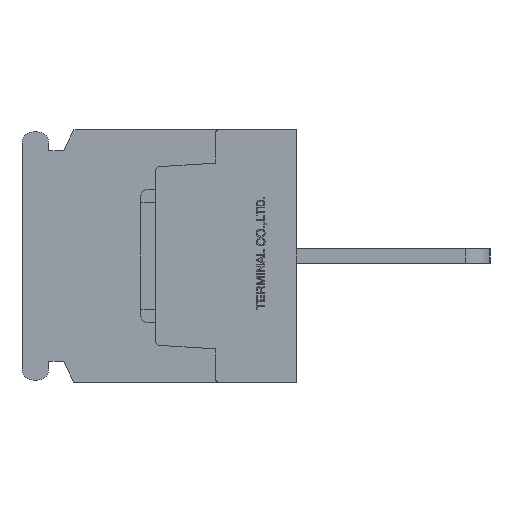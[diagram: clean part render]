
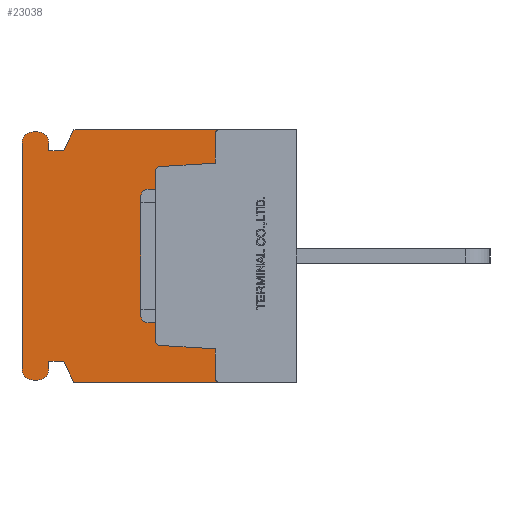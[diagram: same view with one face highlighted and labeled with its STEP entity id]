
A CAD part, left-side view. The second image highlights one B-rep face of the part: STEP entity #23038.
In plain terms, the highlighted planar face has unit normal (-1, 0, 0).
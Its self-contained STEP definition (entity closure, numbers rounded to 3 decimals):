
#1359=CIRCLE('',#24706,0.3);
#1361=CIRCLE('',#24710,0.3);
#1363=CIRCLE('',#24715,0.3);
#1365=CIRCLE('',#24718,0.3);
#1374=CIRCLE('',#24875,0.75);
#1375=CIRCLE('',#24876,0.75);
#1376=CIRCLE('',#24877,0.75);
#1377=CIRCLE('',#24878,0.75);
#2634=VERTEX_POINT('',#34481);
#2635=VERTEX_POINT('',#34483);
#2673=VERTEX_POINT('',#34567);
#2674=VERTEX_POINT('',#34569);
#3139=VERTEX_POINT('',#36195);
#3140=VERTEX_POINT('',#36196);
#3143=VERTEX_POINT('',#36204);
#3157=VERTEX_POINT('',#36234);
#3159=VERTEX_POINT('',#36240);
#3161=VERTEX_POINT('',#36246);
#3163=VERTEX_POINT('',#36252);
#3165=VERTEX_POINT('',#36261);
#3512=VERTEX_POINT('',#37803);
#3513=VERTEX_POINT('',#37805);
#3514=VERTEX_POINT('',#37807);
#3515=VERTEX_POINT('',#37809);
#3516=VERTEX_POINT('',#37811);
#3517=VERTEX_POINT('',#37813);
#3518=VERTEX_POINT('',#37815);
#3519=VERTEX_POINT('',#37817);
#3520=VERTEX_POINT('',#37819);
#3521=VERTEX_POINT('',#37821);
#3522=VERTEX_POINT('',#37823);
#3523=VERTEX_POINT('',#37825);
#4972=VECTOR('',#27745,1.);
#5016=VECTOR('',#27793,1.);
#5480=VECTOR('',#29116,1.);
#5497=VECTOR('',#29140,1.);
#5501=VECTOR('',#29151,1.);
#5504=VECTOR('',#29155,1.);
#5508=VECTOR('',#29172,1.);
#5921=VECTOR('',#29750,1.);
#5922=VECTOR('',#29751,1.);
#5923=VECTOR('',#29752,1.);
#5924=VECTOR('',#29755,1.);
#5925=VECTOR('',#29758,1.);
#5926=VECTOR('',#29761,1.);
#5927=VECTOR('',#29764,1.);
#5928=VECTOR('',#29765,1.);
#5929=VECTOR('',#29766,1.);
#7362=LINE('',#34482,#4972);
#7406=LINE('',#34568,#5016);
#7870=LINE('',#36194,#5480);
#7887=LINE('',#36233,#5497);
#7891=LINE('',#36245,#5501);
#7894=LINE('',#36251,#5504);
#7898=LINE('',#36266,#5508);
#8311=LINE('',#37802,#5921);
#8312=LINE('',#37804,#5922);
#8313=LINE('',#37806,#5923);
#8314=LINE('',#37810,#5924);
#8315=LINE('',#37814,#5925);
#8316=LINE('',#37818,#5926);
#8317=LINE('',#37822,#5927);
#8318=LINE('',#37824,#5928);
#8319=LINE('',#37826,#5929);
#10285=EDGE_CURVE('',#2634,#2635,#7362,.T.);
#10330=EDGE_CURVE('',#2673,#2674,#7406,.T.);
#11057=EDGE_CURVE('',#3139,#3140,#7870,.T.);
#11061=EDGE_CURVE('',#3143,#3139,#1359,.T.);
#11076=EDGE_CURVE('',#3157,#3143,#7887,.T.);
#11079=EDGE_CURVE('',#3159,#3157,#1361,.T.);
#11082=EDGE_CURVE('',#3161,#3159,#7891,.T.);
#11085=EDGE_CURVE('',#3163,#3161,#7894,.T.);
#11088=EDGE_CURVE('',#2674,#3163,#1363,.T.);
#11090=EDGE_CURVE('',#3165,#2634,#1365,.T.);
#11093=EDGE_CURVE('',#3140,#3165,#7898,.T.);
#11617=EDGE_CURVE('',#3512,#2673,#8311,.T.);
#11618=EDGE_CURVE('',#3513,#3512,#8312,.T.);
#11619=EDGE_CURVE('',#3514,#3513,#8313,.T.);
#11620=EDGE_CURVE('',#3515,#3514,#1374,.T.);
#11621=EDGE_CURVE('',#3516,#3515,#8314,.T.);
#11622=EDGE_CURVE('',#3517,#3516,#1375,.T.);
#11623=EDGE_CURVE('',#3518,#3517,#8315,.T.);
#11624=EDGE_CURVE('',#3519,#3518,#1376,.T.);
#11625=EDGE_CURVE('',#3520,#3519,#8316,.T.);
#11626=EDGE_CURVE('',#3521,#3520,#1377,.T.);
#11627=EDGE_CURVE('',#3522,#3521,#8317,.T.);
#11628=EDGE_CURVE('',#3523,#3522,#8318,.T.);
#11629=EDGE_CURVE('',#2635,#3523,#8319,.T.);
#18110=ORIENTED_EDGE('',*,*,#11088,.F.);
#18111=ORIENTED_EDGE('',*,*,#10330,.F.);
#18112=ORIENTED_EDGE('',*,*,#11617,.F.);
#18113=ORIENTED_EDGE('',*,*,#11618,.F.);
#18114=ORIENTED_EDGE('',*,*,#11619,.F.);
#18115=ORIENTED_EDGE('',*,*,#11620,.F.);
#18116=ORIENTED_EDGE('',*,*,#11621,.F.);
#18117=ORIENTED_EDGE('',*,*,#11622,.F.);
#18118=ORIENTED_EDGE('',*,*,#11623,.F.);
#18119=ORIENTED_EDGE('',*,*,#11624,.F.);
#18120=ORIENTED_EDGE('',*,*,#11625,.F.);
#18121=ORIENTED_EDGE('',*,*,#11626,.F.);
#18122=ORIENTED_EDGE('',*,*,#11627,.F.);
#18123=ORIENTED_EDGE('',*,*,#11628,.F.);
#18124=ORIENTED_EDGE('',*,*,#11629,.F.);
#18125=ORIENTED_EDGE('',*,*,#10285,.F.);
#18126=ORIENTED_EDGE('',*,*,#11090,.F.);
#18127=ORIENTED_EDGE('',*,*,#11093,.F.);
#18128=ORIENTED_EDGE('',*,*,#11057,.F.);
#18129=ORIENTED_EDGE('',*,*,#11061,.F.);
#18130=ORIENTED_EDGE('',*,*,#11076,.F.);
#18131=ORIENTED_EDGE('',*,*,#11079,.F.);
#18132=ORIENTED_EDGE('',*,*,#11082,.F.);
#18133=ORIENTED_EDGE('',*,*,#11085,.F.);
#20185=EDGE_LOOP('',(#18110,#18111,#18112,#18113,#18114,#18115,#18116,#18117,
#18118,#18119,#18120,#18121,#18122,#18123,#18124,#18125,#18126,#18127,#18128,
#18129,#18130,#18131,#18132,#18133));
#21697=FACE_BOUND('',#20185,.T.);
#23038=ADVANCED_FACE('',(#21697),#39234,.F.);
#24706=AXIS2_PLACEMENT_3D('',#36203,#29122,#29123);
#24710=AXIS2_PLACEMENT_3D('',#36239,#29145,#29146);
#24715=AXIS2_PLACEMENT_3D('',#36257,#29160,#29161);
#24718=AXIS2_PLACEMENT_3D('',#36260,#29166,#29167);
#24874=AXIS2_PLACEMENT_3D('',#37801,#29749,$);
#24875=AXIS2_PLACEMENT_3D('',#37808,#29753,#29754);
#24876=AXIS2_PLACEMENT_3D('',#37812,#29756,#29757);
#24877=AXIS2_PLACEMENT_3D('',#37816,#29759,#29760);
#24878=AXIS2_PLACEMENT_3D('',#37820,#29762,#29763);
#27745=DIRECTION('',(0.,1.,0.));
#27793=DIRECTION('',(0.,-1.,0.));
#29116=DIRECTION('',(0.,-0.998,-0.062));
#29122=DIRECTION('',(-1.,0.,0.));
#29123=DIRECTION('',(0.,0.,-0.3));
#29140=DIRECTION('',(0.,0.,-1.));
#29145=DIRECTION('',(-1.,0.,0.));
#29146=DIRECTION('',(0.,0.,-0.3));
#29151=DIRECTION('',(0.,0.998,-0.062));
#29155=DIRECTION('',(0.,0.,-1.));
#29160=DIRECTION('',(-1.,0.,0.));
#29161=DIRECTION('',(0.,0.,-0.3));
#29166=DIRECTION('',(-1.,0.,0.));
#29167=DIRECTION('',(0.,0.,-0.3));
#29172=DIRECTION('',(0.,0.,-1.));
#29749=DIRECTION('',(1.,0.,0.));
#29750=DIRECTION('',(0.,-0.447,0.894));
#29751=DIRECTION('',(0.,-1.,0.));
#29752=DIRECTION('',(0.,0.,-1.));
#29753=DIRECTION('',(1.,0.,0.));
#29754=DIRECTION('',(0.,0.,-0.75));
#29755=DIRECTION('',(0.,-1.,0.));
#29756=DIRECTION('',(1.,0.,0.));
#29757=DIRECTION('',(0.,0.,-0.75));
#29758=DIRECTION('',(0.,0.,1.));
#29759=DIRECTION('',(1.,0.,0.));
#29760=DIRECTION('',(0.,0.,-0.75));
#29761=DIRECTION('',(0.,1.,0.));
#29762=DIRECTION('',(1.,0.,0.));
#29763=DIRECTION('',(0.,0.,-0.75));
#29764=DIRECTION('',(0.,0.,-1.));
#29765=DIRECTION('',(0.,1.,0.));
#29766=DIRECTION('',(0.,0.447,0.894));
#34481=CARTESIAN_POINT('',(0.,5.2,-8.5));
#34482=CARTESIAN_POINT('',(0.,0.,-8.5));
#34483=CARTESIAN_POINT('',(0.,15.,-8.5));
#34567=CARTESIAN_POINT('',(0.,15.,8.5));
#34568=CARTESIAN_POINT('',(0.,15.,8.5));
#34569=CARTESIAN_POINT('',(0.,5.2,8.5));
#36194=CARTESIAN_POINT('',(0.,9.219,-6.018));
#36195=CARTESIAN_POINT('',(0.,9.219,-6.018));
#36196=CARTESIAN_POINT('',(0.,5.5,-6.25));
#36203=CARTESIAN_POINT('',(0.,9.2,-5.718));
#36204=CARTESIAN_POINT('',(0.,9.5,-5.718));
#36233=CARTESIAN_POINT('',(0.,9.5,5.718));
#36234=CARTESIAN_POINT('',(0.,9.5,5.718));
#36239=CARTESIAN_POINT('',(0.,9.2,5.718));
#36240=CARTESIAN_POINT('',(0.,9.219,6.018));
#36245=CARTESIAN_POINT('',(0.,5.5,6.25));
#36246=CARTESIAN_POINT('',(0.,5.5,6.25));
#36251=CARTESIAN_POINT('',(0.,5.5,8.2));
#36252=CARTESIAN_POINT('',(0.,5.5,8.2));
#36257=CARTESIAN_POINT('',(0.,5.2,8.2));
#36260=CARTESIAN_POINT('',(0.,5.2,-8.2));
#36261=CARTESIAN_POINT('',(0.,5.5,-8.2));
#36266=CARTESIAN_POINT('',(0.,5.5,-6.25));
#37801=CARTESIAN_POINT('',(0.,9.463,0.));
#37802=CARTESIAN_POINT('',(0.,15.7,7.1));
#37803=CARTESIAN_POINT('',(0.,15.7,7.1));
#37804=CARTESIAN_POINT('',(0.,16.7,7.1));
#37805=CARTESIAN_POINT('',(0.,16.7,7.1));
#37806=CARTESIAN_POINT('',(0.,16.7,7.6));
#37807=CARTESIAN_POINT('',(0.,16.7,7.6));
#37808=CARTESIAN_POINT('',(0.,17.45,7.6));
#37809=CARTESIAN_POINT('',(0.,17.45,8.35));
#37810=CARTESIAN_POINT('',(0.,17.75,8.35));
#37811=CARTESIAN_POINT('',(0.,17.75,8.35));
#37812=CARTESIAN_POINT('',(0.,17.75,7.6));
#37813=CARTESIAN_POINT('',(0.,18.5,7.6));
#37814=CARTESIAN_POINT('',(0.,18.5,-7.6));
#37815=CARTESIAN_POINT('',(0.,18.5,-7.6));
#37816=CARTESIAN_POINT('',(0.,17.75,-7.6));
#37817=CARTESIAN_POINT('',(0.,17.75,-8.35));
#37818=CARTESIAN_POINT('',(0.,17.45,-8.35));
#37819=CARTESIAN_POINT('',(0.,17.45,-8.35));
#37820=CARTESIAN_POINT('',(0.,17.45,-7.6));
#37821=CARTESIAN_POINT('',(0.,16.7,-7.6));
#37822=CARTESIAN_POINT('',(0.,16.7,-7.1));
#37823=CARTESIAN_POINT('',(0.,16.7,-7.1));
#37824=CARTESIAN_POINT('',(0.,15.7,-7.1));
#37825=CARTESIAN_POINT('',(0.,15.7,-7.1));
#37826=CARTESIAN_POINT('',(0.,15.,-8.5));
#39234=PLANE('',#24874);
